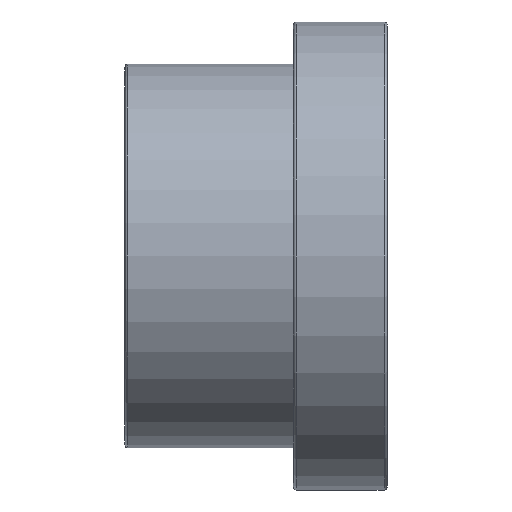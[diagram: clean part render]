
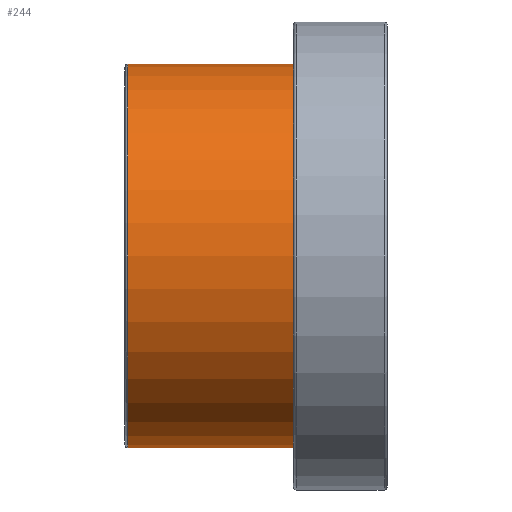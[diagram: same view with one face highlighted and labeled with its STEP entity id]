
A CAD part, front view. The second image highlights one B-rep face of the part: STEP entity #244.
In plain terms, the highlighted cylindrical face has radius 20.5 mm (diameter 41 mm), a full revolution.
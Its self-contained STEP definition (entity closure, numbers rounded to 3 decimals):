
#20=CYLINDRICAL_SURFACE('',#288,20.5);
#46=FACE_BOUND('',#108,.T.);
#67=FACE_OUTER_BOUND('',#107,.T.);
#107=EDGE_LOOP('',(#212));
#108=EDGE_LOOP('',(#213));
#130=CIRCLE('',#285,20.5);
#131=CIRCLE('',#287,20.5);
#151=VERTEX_POINT('',#433);
#152=VERTEX_POINT('',#436);
#172=EDGE_CURVE('',#151,#151,#130,.T.);
#173=EDGE_CURVE('',#152,#152,#131,.T.);
#212=ORIENTED_EDGE('',*,*,#172,.T.);
#213=ORIENTED_EDGE('',*,*,#173,.F.);
#244=ADVANCED_FACE('',(#67,#46),#20,.T.);
#285=AXIS2_PLACEMENT_3D('',#434,#366,#367);
#287=AXIS2_PLACEMENT_3D('',#437,#370,#371);
#288=AXIS2_PLACEMENT_3D('',#438,#372,#373);
#366=DIRECTION('center_axis',(-1.,0.,0.));
#367=DIRECTION('ref_axis',(0.,0.,1.));
#370=DIRECTION('center_axis',(-1.,0.,0.));
#371=DIRECTION('ref_axis',(0.,1.,0.));
#372=DIRECTION('center_axis',(-1.,0.,0.));
#373=DIRECTION('ref_axis',(0.,-1.,0.));
#433=CARTESIAN_POINT('',(18.,-20.5,0.));
#434=CARTESIAN_POINT('Origin',(18.,0.,0.));
#436=CARTESIAN_POINT('',(0.32,-20.5,0.));
#437=CARTESIAN_POINT('Origin',(0.32,0.,0.));
#438=CARTESIAN_POINT('Origin',(9.,0.,0.));
